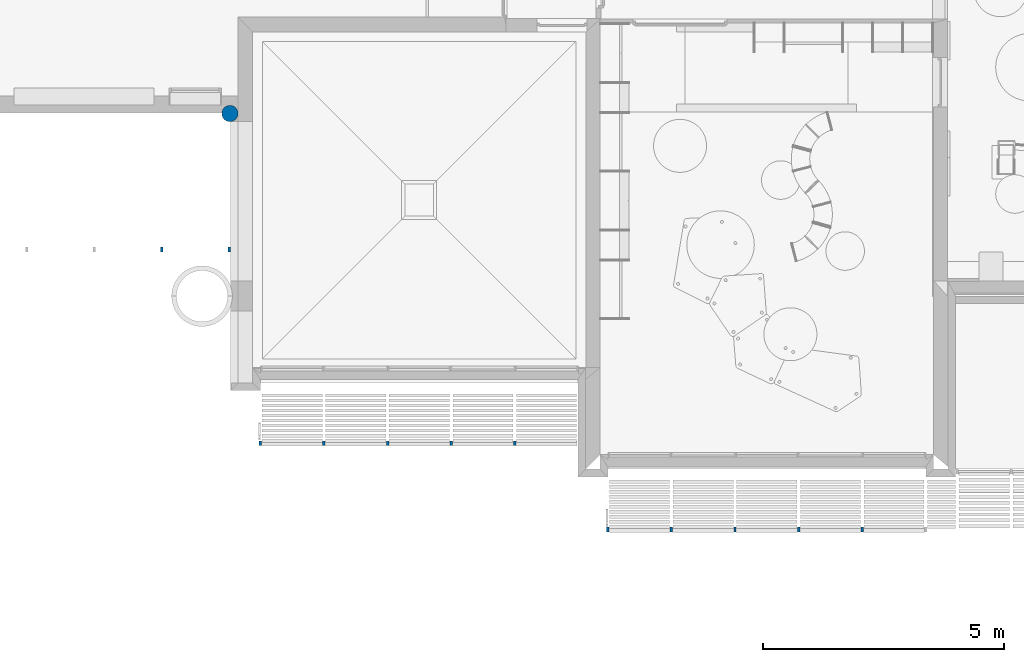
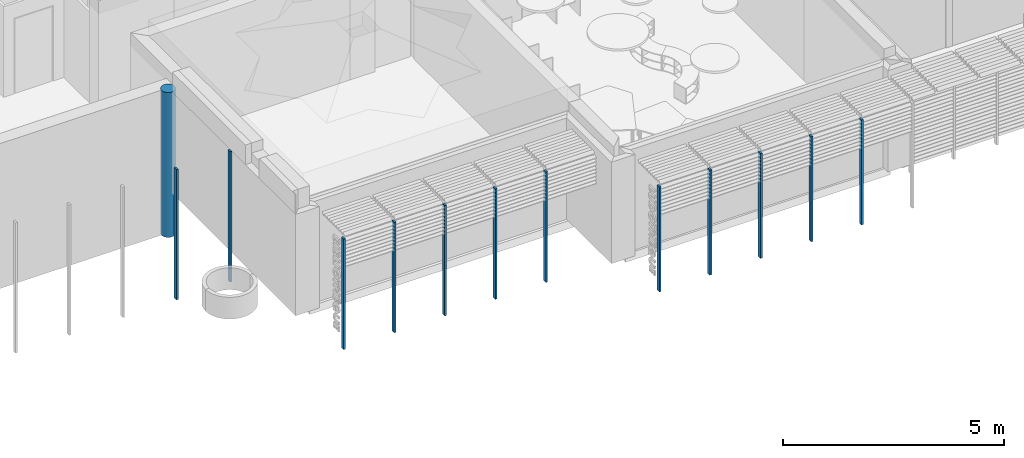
# One storey, part 2 of 64: 13 columns.
"""IFC2X3 building model written with IfcOpenShell, lengths in metres."""

from ifc_helpers import new_model, entity, si_unit, converted_unit, derived_unit, direction, frame, frame_2d, origin, origin_2d_with_axis, place, context, subcontext, project, spatial, rectangle, circle, extrude, source, transform, mapped, material, type_object, type_shapes, element, save


model = new_model("IFC2X3")

# Units and contexts
model_context = context("Model", 3, precision=1e-05, world=origin(), true_north=direction((6.123031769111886e-17, 1.0)))
body_context = subcontext(model_context, "Body", "Model", "MODEL_VIEW")
ifc_project = project(units=[si_unit("LENGTHUNIT", "METRE"), si_unit("AREAUNIT", "SQUARE_METRE"), si_unit("VOLUMEUNIT", "CUBIC_METRE"), converted_unit("PLANEANGLEUNIT", "DEGREE", entity("IfcRatioMeasure", 0.017453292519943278), si_unit("PLANEANGLEUNIT", "RADIAN"), dimensions=[0, 0, 0, 0, 0, 0, 0]), si_unit("MASSUNIT", "GRAM", prefix="KILO"), derived_unit("MASSDENSITYUNIT", [(si_unit("MASSUNIT", "GRAM", prefix="KILO"), 1), (si_unit("LENGTHUNIT", "METRE"), -3)]), derived_unit("MOMENTOFINERTIAUNIT", [(si_unit("LENGTHUNIT", "METRE"), 4)]), si_unit("TIMEUNIT", "SECOND"), si_unit("FREQUENCYUNIT", "HERTZ"), si_unit("THERMODYNAMICTEMPERATUREUNIT", "DEGREE_CELSIUS"), derived_unit("THERMALTRANSMITTANCEUNIT", [(si_unit("MASSUNIT", "GRAM", prefix="KILO"), 1), (si_unit("THERMODYNAMICTEMPERATUREUNIT", "KELVIN"), -1), (si_unit("TIMEUNIT", "SECOND"), -3)]), derived_unit("THERMALCONDUCTANCEUNIT", [(si_unit("MASSUNIT", "GRAM", prefix="KILO"), 1), (si_unit("LENGTHUNIT", "METRE"), 1), (si_unit("THERMODYNAMICTEMPERATUREUNIT", "KELVIN"), -1), (si_unit("TIMEUNIT", "SECOND"), -3)]), derived_unit("VOLUMETRICFLOWRATEUNIT", [(si_unit("LENGTHUNIT", "METRE"), 3), (si_unit("TIMEUNIT", "SECOND"), -1)]), derived_unit("MASSFLOWRATEUNIT", [(si_unit("MASSUNIT", "GRAM", prefix="KILO"), 1), (si_unit("TIMEUNIT", "SECOND"), -1)]), derived_unit("ROTATIONALFREQUENCYUNIT", [(si_unit("TIMEUNIT", "SECOND"), -1)]), si_unit("ELECTRICCURRENTUNIT", "AMPERE"), si_unit("ELECTRICVOLTAGEUNIT", "VOLT"), si_unit("POWERUNIT", "WATT"), si_unit("FORCEUNIT", "NEWTON", prefix="KILO"), si_unit("ILLUMINANCEUNIT", "LUX"), si_unit("LUMINOUSFLUXUNIT", "LUMEN"), si_unit("LUMINOUSINTENSITYUNIT", "CANDELA"), derived_unit("USERDEFINED", [(si_unit("MASSUNIT", "GRAM", prefix="KILO"), -1), (si_unit("LENGTHUNIT", "METRE"), -2), (si_unit("TIMEUNIT", "SECOND"), 3), (si_unit("LUMINOUSFLUXUNIT", "LUMEN"), 1)]), derived_unit("USERDEFINED", [(si_unit("MASSUNIT", "GRAM", prefix="KILO"), 1), (si_unit("LENGTHUNIT", "METRE"), 3), (si_unit("TIMEUNIT", "SECOND"), -3), (si_unit("ELECTRICCURRENTUNIT", "AMPERE"), -2)]), derived_unit("USERDEFINED", [(si_unit("LENGTHUNIT", "METRE"), 2), (si_unit("TIMEUNIT", "SECOND"), -2)]), derived_unit("SOUNDPOWERUNIT", [(si_unit("MASSUNIT", "GRAM", prefix="KILO"), 1), (si_unit("LENGTHUNIT", "METRE"), 2), (si_unit("TIMEUNIT", "SECOND"), -3)]), derived_unit("SOUNDPRESSUREUNIT", [(si_unit("MASSUNIT", "GRAM", prefix="KILO"), 1), (si_unit("LENGTHUNIT", "METRE"), -1), (si_unit("TIMEUNIT", "SECOND"), -2)]), derived_unit("LINEARVELOCITYUNIT", [(si_unit("LENGTHUNIT", "METRE"), 1), (si_unit("TIMEUNIT", "SECOND"), -1)]), si_unit("PRESSUREUNIT", "PASCAL"), derived_unit("USERDEFINED", [(si_unit("LENGTHUNIT", "METRE"), -2), (si_unit("MASSUNIT", "GRAM", prefix="KILO"), 1), (si_unit("TIMEUNIT", "SECOND"), -2)]), derived_unit("LINEARFORCEUNIT", [(si_unit("MASSUNIT", "GRAM", prefix="KILO"), 1), (si_unit("LENGTHUNIT", "METRE"), 1), (si_unit("TIMEUNIT", "SECOND"), -2), (si_unit("LENGTHUNIT", "METRE"), -1)]), derived_unit("PLANARFORCEUNIT", [(si_unit("MASSUNIT", "GRAM", prefix="KILO"), 1), (si_unit("LENGTHUNIT", "METRE"), 1), (si_unit("TIMEUNIT", "SECOND"), -2), (si_unit("LENGTHUNIT", "METRE"), -2)]), derived_unit("SPECIFICHEATCAPACITYUNIT", [(si_unit("LENGTHUNIT", "METRE"), 2), (si_unit("TIMEUNIT", "SECOND"), -2), (si_unit("THERMODYNAMICTEMPERATUREUNIT", "KELVIN"), -1)]), derived_unit("VAPORPERMEABILITYUNIT", [(si_unit("TIMEUNIT", "SECOND"), 1), (si_unit("LENGTHUNIT", "METRE"), -1)]), derived_unit("DYNAMICVISCOSITYUNIT", [(si_unit("MASSUNIT", "GRAM", prefix="KILO"), 1), (si_unit("LENGTHUNIT", "METRE"), -1), (si_unit("TIMEUNIT", "SECOND"), -1)]), derived_unit("THERMALEXPANSIONCOEFFICIENTUNIT", [(si_unit("THERMODYNAMICTEMPERATUREUNIT", "KELVIN"), -1)])], contexts=[model_context])

# Site, building, storey
site_placement = place(None, origin())
site = spatial("IfcSite", under=ifc_project, at=site_placement, Name="Default", CompositionType="ELEMENT")
building_placement = place(site_placement, origin())
building = spatial("IfcBuilding", under=site, at=building_placement, CompositionType="ELEMENT")
storey_placement = place(building_placement, origin())
storey = spatial("IfcBuildingStorey", under=building, at=storey_placement, Name="REZ-DE-CHAUSSÉE", CompositionType="ELEMENT", Elevation=0.0)

# Columns
ifc_material_1 = material(Name="Peinture - Gris foncé")
column_type_1 = type_object("IfcColumnType", Name="Pot-006 56846:Pot-006 56846", PredefinedType="COLUMN", material=ifc_material_1)
shared_shape_1 = source(origin(), body_context, "Body", "SweptSolid", [
    extrude(rectangle(XDim=0.1, YDim=0.05, at=origin_2d_with_axis()), frame((0.0, 0.0, -0.45), z_axis=(0.0, 0.0, 1.0), x_axis=(0.0, -1.0, 0.0)), (0.0, 0.0, 1.0), 3.05),
])
type_shapes(column_type_1, [shared_shape_1])
for number, where, name in (
    (1, (108.400752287, 4.70720948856, 0.0), "Pot-006"),
    (2, (107.08075228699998, 4.70720948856, 0.0), "Pot-006"),
    (3, (105.76075228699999, 4.70720948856, 0.0), "Pot-006"),
    (4, (104.44075228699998, 4.70720948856, 0.0), "Pot-006"),
    (5, (103.12075228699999, 4.70720948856, 0.0), "Pot-006"),
):
    element("IfcColumn", number, at=place(storey_placement, frame(where)), inside=storey, type_object=column_type_1, material=ifc_material_1, Name=name, ObjectType="Pot-006 56846:Pot-006 56846", context=body_context, shape_type="MappedRepresentation", body=[
        mapped(shared_shape_1, transform((0.0, 0.0, 0.0), scale=1.0)),
    ])
column_type_2 = type_object("IfcColumnType", Name="Pot-006 56846:Pot-006 56846", PredefinedType="COLUMN", material=ifc_material_1)
shared_shape_2 = source(origin(), body_context, "Body", "SweptSolid", [
    extrude(rectangle(XDim=0.1, YDim=0.05, at=origin_2d_with_axis()), frame((0.0, 0.0, -0.8), z_axis=(0.0, 0.0, 1.0), x_axis=(0.0, -1.0, 0.0)), (0.0, 0.0, 1.0), 3.5999999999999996),
])
type_shapes(column_type_2, [shared_shape_2])
for number, where, name in (
    (6, (102.47575228, 8.727209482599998, 0.0), "Pot-006"),
    (7, (101.07575228, 8.727209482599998, 0.0), "Pot-006"),
):
    element("IfcColumn", number, at=place(storey_placement, frame(where)), inside=storey, type_object=column_type_2, material=ifc_material_1, Name=name, ObjectType="Pot-006 56846:Pot-006 56846", context=body_context, shape_type="MappedRepresentation", body=[
        mapped(shared_shape_2, transform((0.0, 0.0, 0.0), scale=1.0)),
    ])
column_type_3 = type_object("IfcColumnType", Name="Pot-006 56846:Pot-006 56846", PredefinedType="COLUMN", material=ifc_material_1)
shared_shape_3 = source(origin(), body_context, "Body", "SweptSolid", [
    extrude(rectangle(XDim=0.1, YDim=0.05, at=origin_2d_with_axis()), frame((0.0, 0.0, -0.30000000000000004), z_axis=(0.0, 0.0, 1.0), x_axis=(0.0, -1.0, 0.0)), (0.0, 0.0, 1.0), 2.8999999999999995),
])
type_shapes(column_type_3, [shared_shape_3])
for number, where, name in (
    (8, (115.610752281, 2.9172094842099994, 0.0), "Pot-006"),
    (9, (114.290752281, 2.9172094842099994, 0.0), "Pot-006"),
    (10, (112.970752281, 2.9172094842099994, 0.0), "Pot-006"),
    (11, (111.65075228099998, 2.9172094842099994, 0.0), "Pot-006"),
    (12, (110.33075228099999, 2.9172094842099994, 0.0), "Pot-006"),
):
    element("IfcColumn", number, at=place(storey_placement, frame(where)), inside=storey, type_object=column_type_3, material=ifc_material_1, Name=name, ObjectType="Pot-006 56846:Pot-006 56846", context=body_context, shape_type="MappedRepresentation", body=[
        mapped(shared_shape_3, transform((0.0, 0.0, 0.0), scale=1.0)),
    ])
ifc_material_2 = material(Name="Surface-Blanc")
column_type_4 = type_object("IfcColumnType", Name="Pot-001 17357:Pot-001 17357", PredefinedType="COLUMN", material=ifc_material_2)
shared_shape_4 = source(origin(), body_context, "Body", "SweptSolid", [
    extrude(circle(Radius=0.17, at=frame_2d((-1.6919798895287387e-17, -2.746069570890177e-16), x_axis=(1.0, 0.0))), frame((0.0, 0.0, -1.1999999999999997)), (0.0, 0.0, 1.0), 4.0),
])
type_shapes(column_type_4, [shared_shape_4])
column_placement = place(storey_placement, frame((102.49075200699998, 11.548218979, 0.0)))
element("IfcColumn", 13, at=column_placement, inside=storey, type_object=column_type_4, material=ifc_material_2, Name="Pot-001", ObjectType="Pot-001 17357:Pot-001 17357", context=body_context, shape_type="MappedRepresentation", body=[
    mapped(shared_shape_4, transform((0.0, 0.0, 0.0), scale=1.0)),
])

save(model, "model.ifc")
